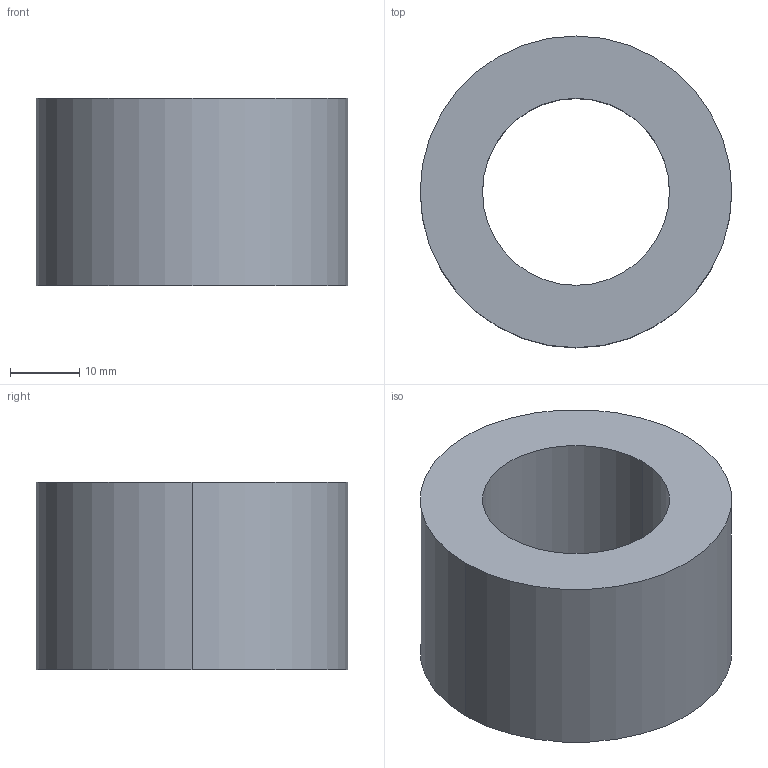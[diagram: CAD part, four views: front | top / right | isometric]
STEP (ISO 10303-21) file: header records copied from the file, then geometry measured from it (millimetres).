
FILE_DESCRIPTION (( 'STEP AP214' ), '1' );
FILE_NAME ('roller.STEP', '2018-04-22T04:25:44', ( '' ), ( '' ), 'SwSTEP 2.0', 'SolidWorks 2018', '' );
FILE_SCHEMA (( 'AUTOMOTIVE_DESIGN' ));
Length unit declared in the file: millimetre
Products named in the file (1): roller
Bounding box: 45 x 45 x 27 mm (x, y, z)
Volume: 27482.7 mm3; surface area: 8143 mm2
Topology: 1 solids, 1 shells, 6 faces, 12 edges, 8 vertices
Faces by surface type: cylinder 4, plane 2
Entity records: 202 total; most frequent: DIRECTION 34, CARTESIAN_POINT 27, ORIENTED_EDGE 24, AXIS2_PLACEMENT_3D 15, EDGE_CURVE 12, EDGE_LOOP 8, VERTEX_POINT 8, CIRCLE 8
